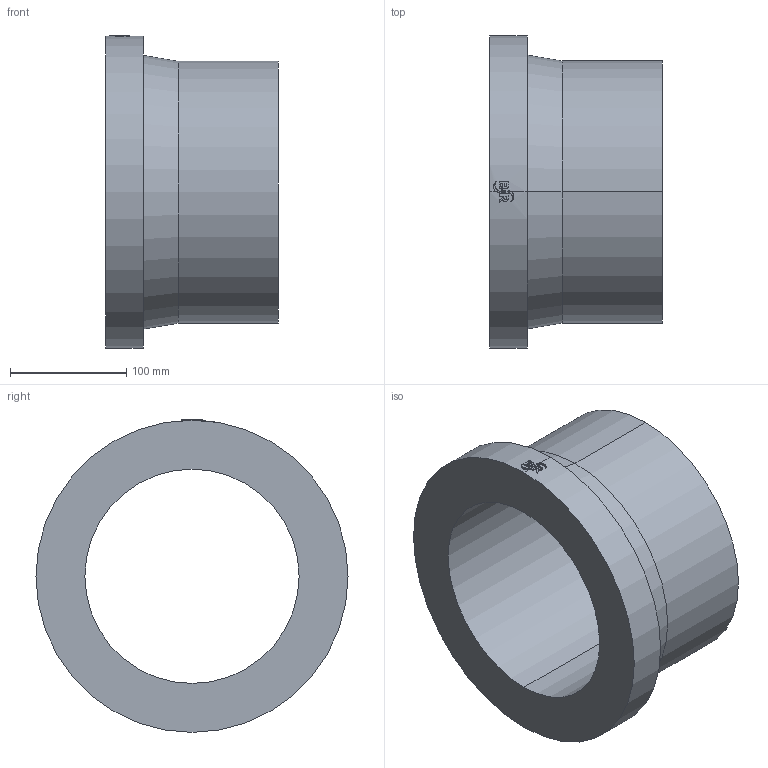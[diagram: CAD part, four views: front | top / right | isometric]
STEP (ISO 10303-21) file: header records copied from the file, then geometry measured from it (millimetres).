
FILE_DESCRIPTION (( 'STEP AP214' ), '1' );
FILE_NAME ('233520F015.STEP', '2018-07-20T12:21:23', ( '' ), ( '' ), 'SwSTEP 2.0', 'SolidWorks 2017', '' );
FILE_SCHEMA (( 'AUTOMOTIVE_DESIGN' ));
Length unit declared in the file: millimetre
Products named in the file (1): 233520F015
Bounding box: 148 x 268 x 268.5 mm (x, y, z)
Volume: 2535854.3 mm3; surface area: 251363.3 mm2
Topology: 1 solids, 1 shells, 60 faces, 154 edges, 102 vertices
Faces by surface type: cylinder 29, plane 29, cone 2
Entity records: 2920 total; most frequent: CARTESIAN_POINT 803, ORIENTED_EDGE 308, DIRECTION 282, EDGE_CURVE 154, AXIS2_PLACEMENT_3D 107, VERTEX_POINT 102, EDGE_LOOP 68, VECTOR 68
